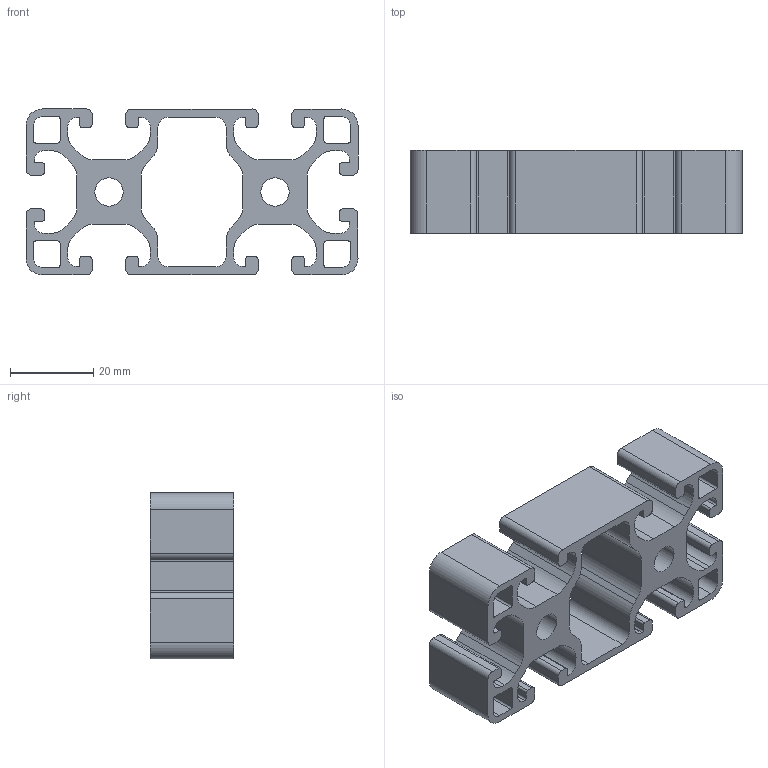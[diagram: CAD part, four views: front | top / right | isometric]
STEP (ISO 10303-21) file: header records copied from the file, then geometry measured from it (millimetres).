
FILE_DESCRIPTION(('STEP AP214'),'1');
FILE_NAME('cctmp_784205EA-D3D4-4659-857D-AF89C506F4BD_2023_04_28_14_11_10_0660_15740..stp','2023-04-28T12:11:10',('item Industrietechnik GmbH'),('CADClick - www.CADClick.com'),'Spatial InterOp 3D',' ','unknown authorization');
FILE_SCHEMA(('AUTOMOTIVE_DESIGN'));
Length unit declared in the file: millimetre
Products named in the file (2): item_0002636_Profile 8 80x40 light_L=20; item_0002636_Profile 8 80x40 light_L=20_1
Assembly tree (1 placements, depth 2):
  item_0002636_Profile 8 80x40 light_L=20
    item_0002636_Profile 8 80x40 light_L=20_1
Bounding box: 80 x 20 x 40 mm (x, y, z)
Volume: 22894.6 mm3; surface area: 17526.8 mm2
Topology: 1 solids, 1 shells, 238 faces, 708 edges, 472 vertices
Faces by surface type: cylinder 120, plane 118
Entity records: 10035 total; most frequent: DIRECTION 1428, CARTESIAN_POINT 1420, ORIENTED_EDGE 1416, EDGE_CURVE 708, AXIS2_PLACEMENT_3D 480, VERTEX_POINT 472, LINE 468, VECTOR 468
